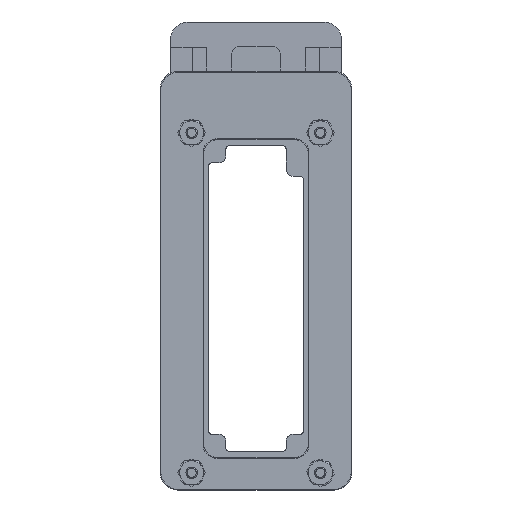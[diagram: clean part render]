
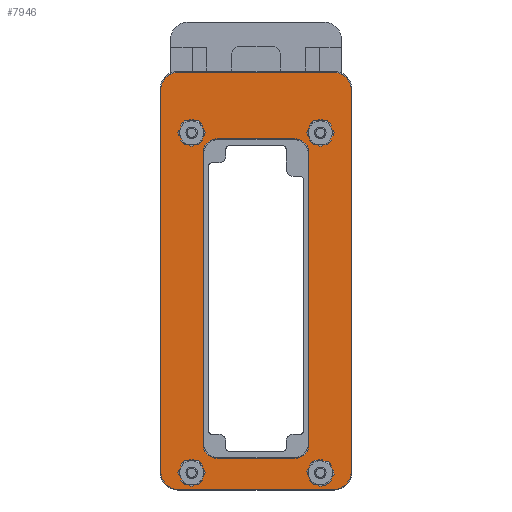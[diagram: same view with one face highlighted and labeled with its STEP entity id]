
A CAD part, left-side view. The second image highlights one B-rep face of the part: STEP entity #7946.
In plain terms, the highlighted planar face has unit normal (-1, 0, 0).
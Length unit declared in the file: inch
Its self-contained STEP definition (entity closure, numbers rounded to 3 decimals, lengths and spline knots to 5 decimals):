
#7510=CARTESIAN_POINT('',(-0.8085,-0.559,-2.546));
#7511=VERTEX_POINT('',#7510);
#7512=CARTESIAN_POINT('',(-0.8085,-0.759,-2.346));
#7513=VERTEX_POINT('',#7512);
#7514=CARTESIAN_POINT('',(-0.8085,-0.559,-2.346));
#7515=DIRECTION('',(-1.0,0.0,0.0));
#7516=DIRECTION('',(0.0,-0.707,-0.707));
#7517=AXIS2_PLACEMENT_3D('',#7514,#7515,#7516);
#7518=CIRCLE('',#7517,0.2);
#7519=EDGE_CURVE('',#7511,#7513,#7518,.T.);
#7553=CARTESIAN_POINT('',(-0.8085,-0.759,1.836));
#7554=VERTEX_POINT('',#7553);
#7555=CARTESIAN_POINT('',(-0.8085,-0.759,1.836));
#7556=DIRECTION('',(0.0,0.0,-1.0));
#7557=VECTOR('',#7556,4.182);
#7558=LINE('',#7555,#7557);
#7559=EDGE_CURVE('',#7554,#7513,#7558,.T.);
#7583=CARTESIAN_POINT('',(-0.8085,0.759,-2.346));
#7584=VERTEX_POINT('',#7583);
#7585=CARTESIAN_POINT('',(-0.8085,0.559,-2.546));
#7586=VERTEX_POINT('',#7585);
#7587=CARTESIAN_POINT('',(-0.8085,0.559,-2.346));
#7588=DIRECTION('',(-1.,0.0,0.0));
#7589=DIRECTION('',(0.0,0.707,-0.707));
#7590=AXIS2_PLACEMENT_3D('',#7587,#7588,#7589);
#7591=CIRCLE('',#7590,0.2);
#7592=EDGE_CURVE('',#7584,#7586,#7591,.T.);
#7633=CARTESIAN_POINT('',(-0.8085,-0.559,-2.546));
#7634=DIRECTION('',(0.0,1.0,0.0));
#7635=VECTOR('',#7634,1.118);
#7636=LINE('',#7633,#7635);
#7637=EDGE_CURVE('',#7511,#7586,#7636,.T.);
#7647=CARTESIAN_POINT('',(-0.8085,0.559,2.036));
#7648=VERTEX_POINT('',#7647);
#7649=CARTESIAN_POINT('',(-0.8085,0.759,1.836));
#7650=VERTEX_POINT('',#7649);
#7651=CARTESIAN_POINT('',(-0.8085,0.559,1.836));
#7652=DIRECTION('',(-1.,0.0,0.0));
#7653=DIRECTION('',(0.0,0.707,0.707));
#7654=AXIS2_PLACEMENT_3D('',#7651,#7652,#7653);
#7655=CIRCLE('',#7654,0.2);
#7656=EDGE_CURVE('',#7648,#7650,#7655,.T.);
#7697=CARTESIAN_POINT('',(-0.8085,0.759,-2.346));
#7698=DIRECTION('',(0.0,0.0,1.0));
#7699=VECTOR('',#7698,4.182);
#7700=LINE('',#7697,#7699);
#7701=EDGE_CURVE('',#7584,#7650,#7700,.T.);
#7711=CARTESIAN_POINT('',(-0.8085,-0.559,2.036));
#7712=VERTEX_POINT('',#7711);
#7713=CARTESIAN_POINT('',(-0.8085,-0.559,1.836));
#7714=DIRECTION('',(-1.0,0.0,0.0));
#7715=DIRECTION('',(0.0,-0.707,0.707));
#7716=AXIS2_PLACEMENT_3D('',#7713,#7714,#7715);
#7717=CIRCLE('',#7716,0.2);
#7718=EDGE_CURVE('',#7554,#7712,#7717,.T.);
#7752=CARTESIAN_POINT('',(-0.8085,0.559,2.036));
#7753=DIRECTION('',(0.0,-1.0,0.0));
#7754=VECTOR('',#7753,1.118);
#7755=LINE('',#7752,#7754);
#7756=EDGE_CURVE('',#7648,#7712,#7755,.T.);
#7777=CARTESIAN_POINT('',(-0.8085,-1.365,-2.74));
#7778=VERTEX_POINT('',#7777);
#7785=CARTESIAN_POINT('',(-0.8085,-1.115,-2.99));
#7786=VERTEX_POINT('',#7785);
#7787=CARTESIAN_POINT('',(-0.8085,-1.115,-2.74));
#7788=DIRECTION('',(1.,0.0,0.0));
#7789=DIRECTION('',(0.0,-0.707,-0.707));
#7790=AXIS2_PLACEMENT_3D('',#7787,#7788,#7789);
#7791=CIRCLE('',#7790,0.25);
#7792=EDGE_CURVE('',#7778,#7786,#7791,.T.);
#7809=CARTESIAN_POINT('',(-0.8085,1.115,-2.99));
#7810=VERTEX_POINT('',#7809);
#7811=CARTESIAN_POINT('',(-0.8085,1.115,-2.99));
#7812=DIRECTION('',(0.0,-1.0,0.0));
#7813=VECTOR('',#7812,2.23);
#7814=LINE('',#7811,#7813);
#7815=EDGE_CURVE('',#7810,#7786,#7814,.T.);
#7834=CARTESIAN_POINT('',(-0.8085,0.,0.));
#7835=DIRECTION('',(-1.0,0.0,0.0));
#7836=DIRECTION('',(0.0,0.0,1.0));
#7837=AXIS2_PLACEMENT_3D('',#7834,#7835,#7836);
#7838=PLANE('',#7837);
#7839=ORIENTED_EDGE('',*,*,#7792,.F.);
#7840=CARTESIAN_POINT('',(-0.8085,-1.365,2.74));
#7841=VERTEX_POINT('',#7840);
#7842=CARTESIAN_POINT('',(-0.8085,-1.365,-2.74));
#7843=DIRECTION('',(0.0,0.0,1.0));
#7844=VECTOR('',#7843,5.48);
#7845=LINE('',#7842,#7844);
#7846=EDGE_CURVE('',#7778,#7841,#7845,.T.);
#7847=ORIENTED_EDGE('',*,*,#7846,.T.);
#7848=CARTESIAN_POINT('',(-0.8085,-1.115,2.99));
#7849=VERTEX_POINT('',#7848);
#7850=CARTESIAN_POINT('',(-0.8085,-1.115,2.74));
#7851=DIRECTION('',(1.0,0.0,0.0));
#7852=DIRECTION('',(0.0,-0.707,0.707));
#7853=AXIS2_PLACEMENT_3D('',#7850,#7851,#7852);
#7854=CIRCLE('',#7853,0.25);
#7855=EDGE_CURVE('',#7849,#7841,#7854,.T.);
#7856=ORIENTED_EDGE('',*,*,#7855,.F.);
#7857=CARTESIAN_POINT('',(-0.8085,1.115,2.99));
#7858=VERTEX_POINT('',#7857);
#7859=CARTESIAN_POINT('',(-0.8085,-1.115,2.99));
#7860=DIRECTION('',(0.0,1.0,0.0));
#7861=VECTOR('',#7860,2.23);
#7862=LINE('',#7859,#7861);
#7863=EDGE_CURVE('',#7849,#7858,#7862,.T.);
#7864=ORIENTED_EDGE('',*,*,#7863,.T.);
#7865=CARTESIAN_POINT('',(-0.8085,1.365,2.74));
#7866=VERTEX_POINT('',#7865);
#7867=CARTESIAN_POINT('',(-0.8085,1.115,2.74));
#7868=DIRECTION('',(1.0,0.0,0.0));
#7869=DIRECTION('',(0.0,0.707,0.707));
#7870=AXIS2_PLACEMENT_3D('',#7867,#7868,#7869);
#7871=CIRCLE('',#7870,0.25);
#7872=EDGE_CURVE('',#7866,#7858,#7871,.T.);
#7873=ORIENTED_EDGE('',*,*,#7872,.F.);
#7874=CARTESIAN_POINT('',(-0.8085,1.365,-2.74));
#7875=VERTEX_POINT('',#7874);
#7876=CARTESIAN_POINT('',(-0.8085,1.365,2.74));
#7877=DIRECTION('',(0.0,0.0,-1.0));
#7878=VECTOR('',#7877,5.48);
#7879=LINE('',#7876,#7878);
#7880=EDGE_CURVE('',#7866,#7875,#7879,.T.);
#7881=ORIENTED_EDGE('',*,*,#7880,.T.);
#7882=CARTESIAN_POINT('',(-0.8085,1.115,-2.74));
#7883=DIRECTION('',(1.,0.0,0.0));
#7884=DIRECTION('',(0.0,0.707,-0.707));
#7885=AXIS2_PLACEMENT_3D('',#7882,#7883,#7884);
#7886=CIRCLE('',#7885,0.25);
#7887=EDGE_CURVE('',#7810,#7875,#7886,.T.);
#7888=ORIENTED_EDGE('',*,*,#7887,.F.);
#7889=ORIENTED_EDGE('',*,*,#7815,.T.);
#7890=EDGE_LOOP('',(#7839,#7847,#7856,#7864,#7873,#7881,#7888,#7889));
#7891=FACE_OUTER_BOUND('',#7890,.T.);
#7892=CARTESIAN_POINT('',(-0.8085,1.023,2.122));
#7893=VERTEX_POINT('',#7892);
#7894=CARTESIAN_POINT('',(-0.8085,0.923,2.122));
#7895=DIRECTION('',(1.0,0.0,0.0));
#7896=DIRECTION('',(0.0,1.0,0.0));
#7897=AXIS2_PLACEMENT_3D('',#7894,#7895,#7896);
#7898=CIRCLE('',#7897,0.1);
#7899=EDGE_CURVE('',#7893,#7893,#7898,.T.);
#7900=ORIENTED_EDGE('',*,*,#7899,.T.);
#7901=EDGE_LOOP('',(#7900));
#7902=FACE_BOUND('',#7901,.T.);
#7903=CARTESIAN_POINT('',(-0.8085,1.023,-2.753));
#7904=VERTEX_POINT('',#7903);
#7905=CARTESIAN_POINT('',(-0.8085,0.923,-2.753));
#7906=DIRECTION('',(1.0,0.0,0.0));
#7907=DIRECTION('',(0.0,1.0,0.0));
#7908=AXIS2_PLACEMENT_3D('',#7905,#7906,#7907);
#7909=CIRCLE('',#7908,0.1);
#7910=EDGE_CURVE('',#7904,#7904,#7909,.T.);
#7911=ORIENTED_EDGE('',*,*,#7910,.T.);
#7912=EDGE_LOOP('',(#7911));
#7913=FACE_BOUND('',#7912,.T.);
#7914=CARTESIAN_POINT('',(-0.8085,-0.823,-2.753));
#7915=VERTEX_POINT('',#7914);
#7916=CARTESIAN_POINT('',(-0.8085,-0.923,-2.753));
#7917=DIRECTION('',(1.0,0.0,0.0));
#7918=DIRECTION('',(0.0,1.0,0.0));
#7919=AXIS2_PLACEMENT_3D('',#7916,#7917,#7918);
#7920=CIRCLE('',#7919,0.1);
#7921=EDGE_CURVE('',#7915,#7915,#7920,.T.);
#7922=ORIENTED_EDGE('',*,*,#7921,.T.);
#7923=EDGE_LOOP('',(#7922));
#7924=FACE_BOUND('',#7923,.T.);
#7925=CARTESIAN_POINT('',(-0.8085,-0.823,2.122));
#7926=VERTEX_POINT('',#7925);
#7927=CARTESIAN_POINT('',(-0.8085,-0.923,2.122));
#7928=DIRECTION('',(1.0,0.0,0.0));
#7929=DIRECTION('',(0.0,1.0,0.0));
#7930=AXIS2_PLACEMENT_3D('',#7927,#7928,#7929);
#7931=CIRCLE('',#7930,0.1);
#7932=EDGE_CURVE('',#7926,#7926,#7931,.T.);
#7933=ORIENTED_EDGE('',*,*,#7932,.T.);
#7934=EDGE_LOOP('',(#7933));
#7935=FACE_BOUND('',#7934,.T.);
#7936=ORIENTED_EDGE('',*,*,#7701,.T.);
#7937=ORIENTED_EDGE('',*,*,#7656,.F.);
#7938=ORIENTED_EDGE('',*,*,#7756,.T.);
#7939=ORIENTED_EDGE('',*,*,#7718,.F.);
#7940=ORIENTED_EDGE('',*,*,#7559,.T.);
#7941=ORIENTED_EDGE('',*,*,#7519,.F.);
#7942=ORIENTED_EDGE('',*,*,#7637,.T.);
#7943=ORIENTED_EDGE('',*,*,#7592,.F.);
#7944=EDGE_LOOP('',(#7936,#7937,#7938,#7939,#7940,#7941,#7942,#7943));
#7945=FACE_BOUND('',#7944,.T.);
#7946=ADVANCED_FACE('',(#7891,#7902,#7913,#7924,#7935,#7945),#7838,.T.);
